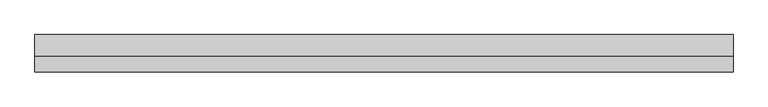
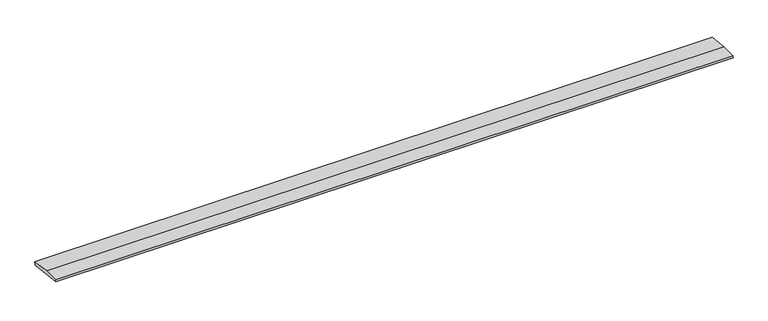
"""IFC4 building model written with IfcOpenShell, lengths in millimetres: beam geometry, weatherboad : weatherboad."""

from ifc_helpers import new_model, si_unit, frame, origin, place, context, project, spatial, polyline, outline, extrude, source, transform, mapped, element, save


def beam_dbdee737(model_context):
    return source(origin(), model_context, "Body", "SweptSolid", [
        extrude(outline(polyline([(0.0, -9.143159), (1.1226388, 0.0), (79.0749747, 0.0), (180.9387048, -12.5072934), (178.6231873, -31.3656703), (0.0, -9.143159)])), frame((-1683.32147, 0.0, 0.0), z_axis=(1.0, 0.0, 0.0), x_axis=(0.0, 1.0, 0.0)), (0.0, 0.0, 1.0), 3366.64294),
    ])


if __name__ == "__main__":
    model = new_model("IFC4")
    model_context = context("Model", 3, world=origin())
    ifc_project = project(units=[si_unit("LENGTHUNIT", "METRE", prefix="MILLI")], contexts=[model_context])
    site = spatial("IfcSite", under=ifc_project)
    building = spatial("IfcBuilding", under=site)
    placement = place(None, origin())
    beam_shape = beam_dbdee737(model_context)
    element("IfcBeam", 1, ObjectType="weatherboad : weatherboad", at=placement, inside=building, context=model_context, shape_type="MappedRepresentation", body=[
        mapped(beam_shape, transform((0.0, 0.0, 0.0), x_axis=(1.0, 0.0, 0.0), y_axis=(0.0, 1.0, 0.0), z_axis=(0.0, 0.0, 1.0))),
    ])
    save(model, "model.ifc")
